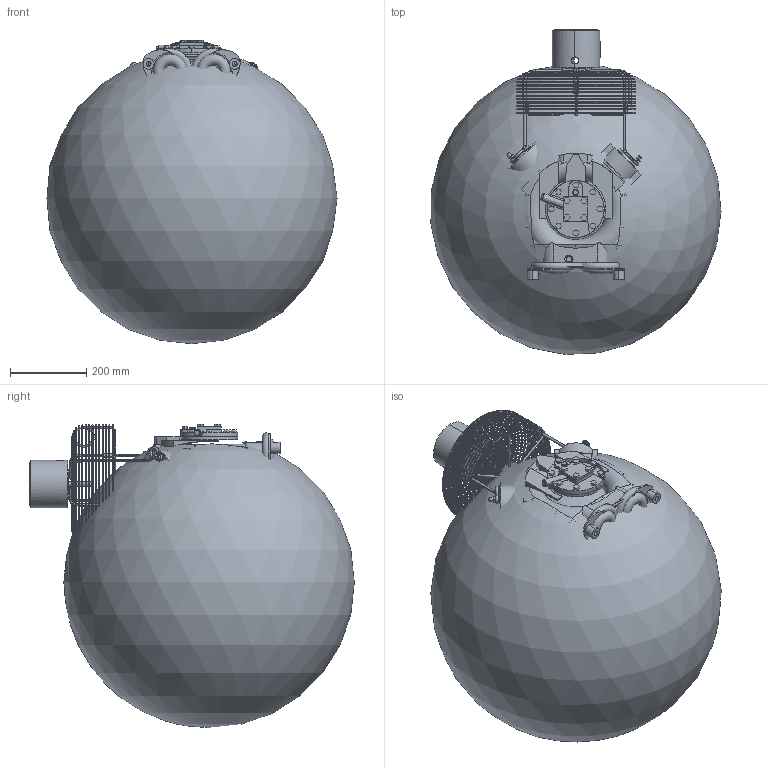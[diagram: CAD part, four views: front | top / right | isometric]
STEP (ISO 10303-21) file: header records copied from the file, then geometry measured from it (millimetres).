
FILE_DESCRIPTION((''),'2;1');
FILE_NAME('06D41ES9F_SV_4FN_SW_3','2004-01-22T',('manikandanm'),(''),'PRO/ENGINEER BY PARAMETRIC TECHNOLOGY CORPORATION, 2001280','PRO/ENGINEER BY PARAMETRIC TECHNOLOGY CORPORATION, 2001280','');
FILE_SCHEMA(('CONFIG_CONTROL_DESIGN','SHAPE_APPEARANCE_LAYERS_GROUPS'));
Products named in the file (1): 06D41ES9F_SV_4FN_SW_3
Bounding box: 760.01 x 850.01 x 794.92 mm (x, y, z)
Surface area: 6529956.4 mm2 (no closed solid volume)
Topology: 0 solids, 0 shells, 1550 faces, 8376 edges, 8214 vertices
Faces by surface type: bspline 1372, torus 165, sphere 13
Entity records: 253576 total; most frequent: CARTESIAN_POINT 156124, DIRECTION 11088, TRIMMED_CURVE 9406, VECTOR 8080, LINE 8080, DEFINITIONAL_REPRESENTATION 8043, PCURVE 8043, COMPOSITE_CURVE_SEGMENT 8043
